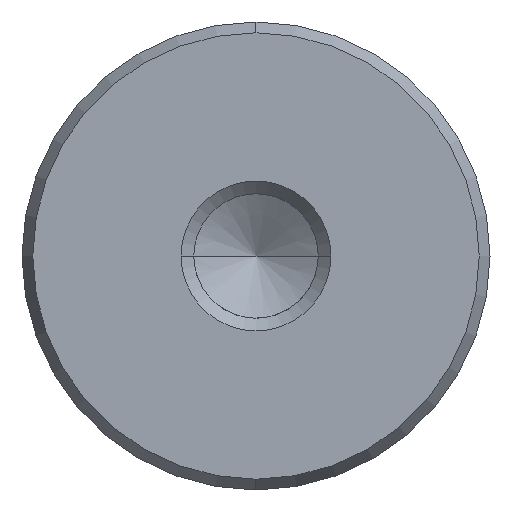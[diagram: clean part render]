
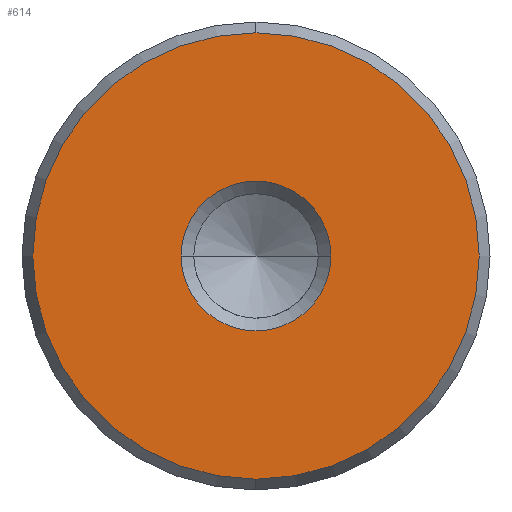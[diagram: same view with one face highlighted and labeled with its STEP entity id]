
A CAD part, left-side view. The second image highlights one B-rep face of the part: STEP entity #614.
In plain terms, the highlighted planar face has unit normal (-1, 0, 0).
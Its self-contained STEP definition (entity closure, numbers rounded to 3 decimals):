
#528=CARTESIAN_POINT('Vertex',(0.,0.,-11.923)) ;
#531=CARTESIAN_POINT('Axis2P3D Location',(0.,0.,0.)) ;
#535=CARTESIAN_POINT('Vertex',(0.,11.923,0.)) ;
#538=CARTESIAN_POINT('Axis2P3D Location',(0.,0.,0.)) ;
#542=CARTESIAN_POINT('Vertex',(0.,0.,11.923)) ;
#564=CARTESIAN_POINT('Axis2P3D Location',(0.,0.,0.)) ;
#568=CARTESIAN_POINT('Vertex',(0.,-11.923,0.)) ;
#571=CARTESIAN_POINT('Axis2P3D Location',(0.,0.,0.)) ;
#585=CARTESIAN_POINT('Axis2P3D Location',(0.,0.,0.)) ;
#596=CARTESIAN_POINT('Axis2P3D Location',(0.,0.,0.)) ;
#600=CARTESIAN_POINT('Vertex',(0.,4.,0.)) ;
#602=CARTESIAN_POINT('Vertex',(0.,-4.,0.)) ;
#605=CARTESIAN_POINT('Axis2P3D Location',(0.,0.,0.)) ;
#532=DIRECTION('Axis2P3D Direction',(1.,0.,-0.)) ;
#539=DIRECTION('Axis2P3D Direction',(1.,0.,-0.)) ;
#565=DIRECTION('Axis2P3D Direction',(1.,0.,-0.)) ;
#572=DIRECTION('Axis2P3D Direction',(1.,0.,-0.)) ;
#586=DIRECTION('Axis2P3D Direction',(1.,0.,-0.)) ;
#587=DIRECTION('Axis2P3D XDirection',(-0.,0.,-1.)) ;
#597=DIRECTION('Axis2P3D Direction',(1.,0.,-0.)) ;
#606=DIRECTION('Axis2P3D Direction',(1.,0.,-0.)) ;
#533=AXIS2_PLACEMENT_3D('Circle Axis2P3D',#531,#532,$) ;
#540=AXIS2_PLACEMENT_3D('Circle Axis2P3D',#538,#539,$) ;
#566=AXIS2_PLACEMENT_3D('Circle Axis2P3D',#564,#565,$) ;
#573=AXIS2_PLACEMENT_3D('Circle Axis2P3D',#571,#572,$) ;
#588=AXIS2_PLACEMENT_3D('Plane Axis2P3D',#585,#586,#587) ;
#598=AXIS2_PLACEMENT_3D('Circle Axis2P3D',#596,#597,$) ;
#607=AXIS2_PLACEMENT_3D('Circle Axis2P3D',#605,#606,$) ;
#591=ORIENTED_EDGE('',*,*,#537,.F.) ;
#592=ORIENTED_EDGE('',*,*,#575,.F.) ;
#593=ORIENTED_EDGE('',*,*,#570,.F.) ;
#594=ORIENTED_EDGE('',*,*,#544,.F.) ;
#611=ORIENTED_EDGE('',*,*,#604,.T.) ;
#612=ORIENTED_EDGE('',*,*,#609,.T.) ;
#613=FACE_BOUND('',#610,.T.) ;
#614=ADVANCED_FACE('720-25x200',(#595,#613),#589,.F.) ;
#534=CIRCLE('generated circle',#533,11.923) ;
#541=CIRCLE('generated circle',#540,11.923) ;
#567=CIRCLE('generated circle',#566,11.923) ;
#574=CIRCLE('generated circle',#573,11.923) ;
#599=CIRCLE('generated circle',#598,4.) ;
#608=CIRCLE('generated circle',#607,4.) ;
#537=EDGE_CURVE('',#529,#536,#534,.T.) ;
#544=EDGE_CURVE('',#536,#543,#541,.T.) ;
#570=EDGE_CURVE('',#543,#569,#567,.T.) ;
#575=EDGE_CURVE('',#569,#529,#574,.T.) ;
#604=EDGE_CURVE('',#601,#603,#599,.T.) ;
#609=EDGE_CURVE('',#603,#601,#608,.T.) ;
#590=EDGE_LOOP('',(#591,#592,#593,#594)) ;
#610=EDGE_LOOP('',(#611,#612)) ;
#595=FACE_OUTER_BOUND('',#590,.T.) ;
#589=PLANE('Plane',#588) ;
#529=VERTEX_POINT('',#528) ;
#536=VERTEX_POINT('',#535) ;
#543=VERTEX_POINT('',#542) ;
#569=VERTEX_POINT('',#568) ;
#601=VERTEX_POINT('',#600) ;
#603=VERTEX_POINT('',#602) ;
